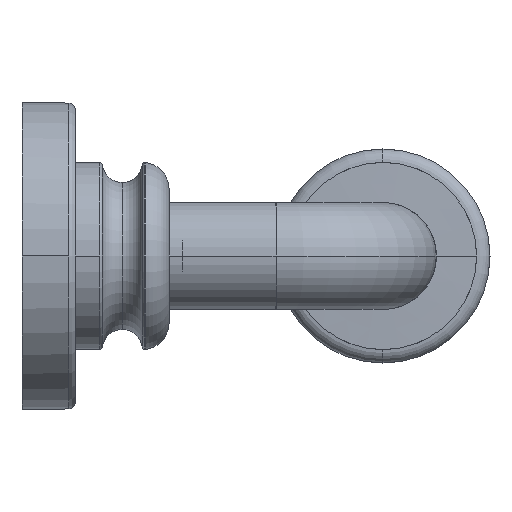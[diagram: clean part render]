
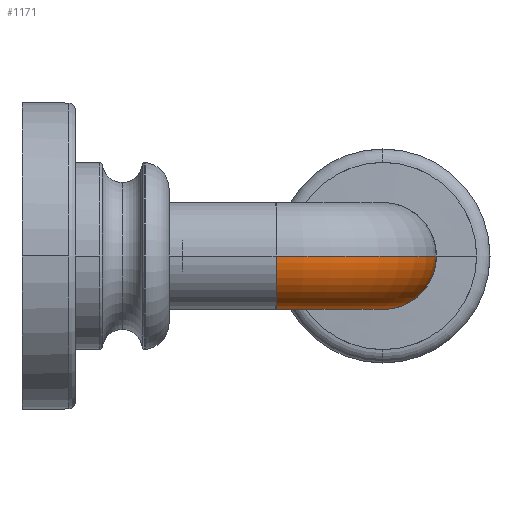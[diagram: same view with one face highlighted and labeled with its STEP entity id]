
A CAD part, left-side view. The second image highlights one B-rep face of the part: STEP entity #1171.
In plain terms, the highlighted toroidal (fillet/blend) face has major radius 8 mm and minor radius 4 mm.
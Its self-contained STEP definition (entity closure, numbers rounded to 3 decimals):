
#759 = EDGE_CURVE( '', #1239, #2019, #2116, .T. );
#781 = EDGE_CURVE( '', #1239, #1195, #2140, .T. );
#963 = EDGE_CURVE( '', #1217, #1515, #2345, .T. );
#965 = VERTEX_POINT( '', #2347 );
#1171 = ADVANCED_FACE( '', ( #2587 ), #2588, .T. );
#1195 = VERTEX_POINT( '', #2614 );
#1217 = VERTEX_POINT( '', #2638 );
#1239 = VERTEX_POINT( '', #2660 );
#1273 = EDGE_CURVE( '', #1515, #965, #2698, .T. );
#1353 = EDGE_CURVE( '', #2019, #1379, #2782, .T. );
#1379 = VERTEX_POINT( '', #2810 );
#1513 = EDGE_CURVE( '', #965, #1379, #2958, .T. );
#1515 = VERTEX_POINT( '', #2960 );
#1601 = EDGE_CURVE( '', #1217, #1195, #3053, .T. );
#2019 = VERTEX_POINT( '', #3512 );
#2116 = CIRCLE( '', #3653, 4. );
#2140 = CIRCLE( '', #3685, 4. );
#2345 = B_SPLINE_CURVE_WITH_KNOTS( '', 3, ( #3936, #3937, #3938, #3939, #3940, #3941 ), .UNSPECIFIED., .F., .F., ( 4, 2, 4 ), ( -0.008, 0., 0.012 ), .UNSPECIFIED. );
#2347 = CARTESIAN_POINT( '', ( -4., -19., 0. ) );
#2587 = FACE_OUTER_BOUND( '', #4247, .T. );
#2588 = TOROIDAL_SURFACE( '', #4248, 8., 4. );
#2614 = CARTESIAN_POINT( '', ( 4., -18.98, 0. ) );
#2638 = CARTESIAN_POINT( '', ( 0., -18.98, -4. ) );
#2660 = CARTESIAN_POINT( '', ( 8., -22.98, 0. ) );
#2698 = B_SPLINE_CURVE_WITH_KNOTS( '', 3, ( #4384, #4385, #4386, #4387, #4388, #4389, #4390, #4391, #4392, #4393, #4394, #4395, #4396, #4397, #4398, #4399, #4400, #4401, #4402, #4403, #4404, #4405, #4406, #4407, #4408, #4409, #4410, #4411, #4412, #4413, #4414, #4415, #4416, #4417, #4418 ), .UNSPECIFIED., .F., .F., ( 4, 2, 2, 2, 2, 2, 2, 2, 3, 2, 2, 2, 2, 2, 2, 2, 4 ), ( 17.772, 18.512, 19.253, 19.993, 20.734, 21.474, 22.214, 22.955, 23.695, 24.436, 25.176, 25.917, 26.657, 27.398, 28.138, 28.879, 29.619 ), .UNSPECIFIED. );
#2782 = CIRCLE( '', #4529, 4. );
#2810 = CARTESIAN_POINT( '', ( 8., -30.98, 0. ) );
#2958 = CIRCLE( '', #4763, 12. );
#2960 = CARTESIAN_POINT( '', ( 0., -19., -4. ) );
#3053 = CIRCLE( '', #4887, 4. );
#3512 = CARTESIAN_POINT( '', ( 8., -26.99, -4. ) );
#3653 = AXIS2_PLACEMENT_3D( '', #5578, #5579, #5580 );
#3685 = AXIS2_PLACEMENT_3D( '', #5608, #5609, #5610 );
#3936 = CARTESIAN_POINT( '', ( 0., -18.98, -4. ) );
#3937 = CARTESIAN_POINT( '', ( 0., -18.983, -4. ) );
#3938 = CARTESIAN_POINT( '', ( 0., -18.985, -4. ) );
#3939 = CARTESIAN_POINT( '', ( 0., -18.992, -4. ) );
#3940 = CARTESIAN_POINT( '', ( 0., -18.996, -4. ) );
#3941 = CARTESIAN_POINT( '', ( 0., -19., -4. ) );
#4247 = EDGE_LOOP( '', ( #6319, #6320, #6321, #6322, #6323, #6324, #6325 ) );
#4248 = AXIS2_PLACEMENT_3D( '', #6326, #6327, #6328 );
#4384 = CARTESIAN_POINT( '', ( 0., -19., -4. ) );
#4385 = CARTESIAN_POINT( '', ( -0.247, -19., -4. ) );
#4386 = CARTESIAN_POINT( '', ( -0.516, -19., -3.976 ) );
#4387 = CARTESIAN_POINT( '', ( -1.044, -19., -3.871 ) );
#4388 = CARTESIAN_POINT( '', ( -1.303, -19., -3.79 ) );
#4389 = CARTESIAN_POINT( '', ( -1.759, -19., -3.601 ) );
#4390 = CARTESIAN_POINT( '', ( -1.998, -19., -3.475 ) );
#4391 = CARTESIAN_POINT( '', ( -2.446, -19., -3.176 ) );
#4392 = CARTESIAN_POINT( '', ( -2.654, -19., -3.003 ) );
#4393 = CARTESIAN_POINT( '', ( -3.003, -19., -2.654 ) );
#4394 = CARTESIAN_POINT( '', ( -3.176, -19., -2.446 ) );
#4395 = CARTESIAN_POINT( '', ( -3.475, -19., -1.998 ) );
#4396 = CARTESIAN_POINT( '', ( -3.601, -19., -1.759 ) );
#4397 = CARTESIAN_POINT( '', ( -3.79, -19., -1.303 ) );
#4398 = CARTESIAN_POINT( '', ( -3.871, -19., -1.044 ) );
#4399 = CARTESIAN_POINT( '', ( -3.976, -19., -0.516 ) );
#4400 = CARTESIAN_POINT( '', ( -4., -19., -0.247 ) );
#4401 = CARTESIAN_POINT( '', ( -4., -19., 0. ) );
#4402 = CARTESIAN_POINT( '', ( -4., -19., 0.247 ) );
#4403 = CARTESIAN_POINT( '', ( -3.976, -19., 0.516 ) );
#4404 = CARTESIAN_POINT( '', ( -3.871, -19., 1.044 ) );
#4405 = CARTESIAN_POINT( '', ( -3.79, -19., 1.303 ) );
#4406 = CARTESIAN_POINT( '', ( -3.601, -19., 1.759 ) );
#4407 = CARTESIAN_POINT( '', ( -3.475, -19., 1.998 ) );
#4408 = CARTESIAN_POINT( '', ( -3.176, -19., 2.446 ) );
#4409 = CARTESIAN_POINT( '', ( -3.003, -19., 2.654 ) );
#4410 = CARTESIAN_POINT( '', ( -2.654, -19., 3.003 ) );
#4411 = CARTESIAN_POINT( '', ( -2.446, -19., 3.176 ) );
#4412 = CARTESIAN_POINT( '', ( -1.998, -19., 3.475 ) );
#4413 = CARTESIAN_POINT( '', ( -1.759, -19., 3.601 ) );
#4414 = CARTESIAN_POINT( '', ( -1.303, -19., 3.79 ) );
#4415 = CARTESIAN_POINT( '', ( -1.044, -19., 3.871 ) );
#4416 = CARTESIAN_POINT( '', ( -0.516, -19., 3.976 ) );
#4417 = CARTESIAN_POINT( '', ( -0.247, -19., 4. ) );
#4418 = CARTESIAN_POINT( '', ( 0., -19., 4. ) );
#4529 = AXIS2_PLACEMENT_3D( '', #6551, #6552, #6553 );
#4763 = AXIS2_PLACEMENT_3D( '', #6784, #6785, #6786 );
#4887 = AXIS2_PLACEMENT_3D( '', #6899, #6900, #6901 );
#5578 = CARTESIAN_POINT( '', ( 8., -26.98, 0. ) );
#5579 = DIRECTION( '', ( -1., 0., 0. ) );
#5580 = DIRECTION( '', ( 0., 1., 0. ) );
#5608 = CARTESIAN_POINT( '', ( 8., -18.98, 0. ) );
#5609 = DIRECTION( '', ( 0., 0., -1. ) );
#5610 = DIRECTION( '', ( 1., 0., 0. ) );
#6319 = ORIENTED_EDGE( '', *, *, #1513, .F. );
#6320 = ORIENTED_EDGE( '', *, *, #1273, .F. );
#6321 = ORIENTED_EDGE( '', *, *, #963, .F. );
#6322 = ORIENTED_EDGE( '', *, *, #1601, .T. );
#6323 = ORIENTED_EDGE( '', *, *, #781, .F. );
#6324 = ORIENTED_EDGE( '', *, *, #759, .T. );
#6325 = ORIENTED_EDGE( '', *, *, #1353, .T. );
#6326 = CARTESIAN_POINT( '', ( 8., -18.98, 0. ) );
#6327 = DIRECTION( '', ( 0., 0., 1. ) );
#6328 = DIRECTION( '', ( 1., 0., 0. ) );
#6551 = CARTESIAN_POINT( '', ( 8., -26.98, 0. ) );
#6552 = DIRECTION( '', ( -1., 0., 0. ) );
#6553 = DIRECTION( '', ( 0., 1., 0. ) );
#6784 = CARTESIAN_POINT( '', ( 8., -18.98, 0. ) );
#6785 = DIRECTION( '', ( 0., 0., 1. ) );
#6786 = DIRECTION( '', ( 1., 0., 0. ) );
#6899 = CARTESIAN_POINT( '', ( 0., -18.98, 0. ) );
#6900 = DIRECTION( '', ( 0., -1., 0. ) );
#6901 = DIRECTION( '', ( -1., 0., 0. ) );
